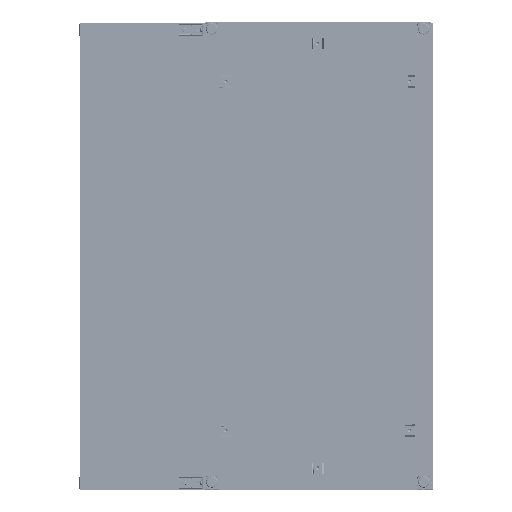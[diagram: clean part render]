
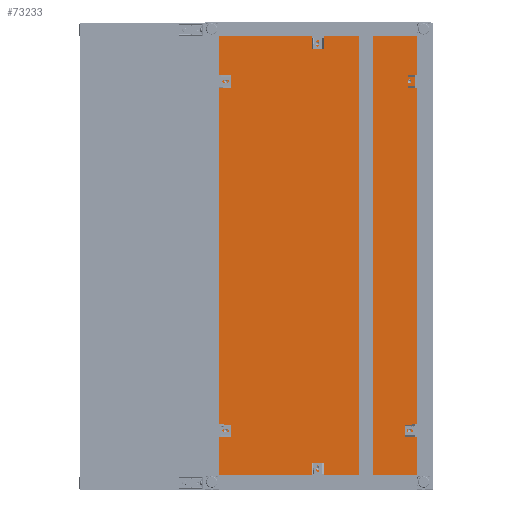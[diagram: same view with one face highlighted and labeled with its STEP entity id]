
A CAD part, top view. The second image highlights one B-rep face of the part: STEP entity #73233.
In plain terms, the highlighted planar face has unit normal (0, 0, 1) as drawn and (0, 0, -1) by its records, which use the part's own axes.
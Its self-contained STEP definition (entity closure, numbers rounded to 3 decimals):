
#5239=FACE_BOUND('',#15379,.T.);
#5240=FACE_BOUND('',#15380,.T.);
#5241=FACE_BOUND('',#15381,.T.);
#5242=FACE_BOUND('',#15382,.T.);
#5243=FACE_BOUND('',#15383,.T.);
#5244=FACE_BOUND('',#15384,.T.);
#7113=PLANE('',#81288);
#11098=FACE_OUTER_BOUND('',#15378,.T.);
#15378=EDGE_LOOP('',(#67421,#67422,#67423,#67424,#67425,#67426,#67427,#67428,
#67429,#67430,#67431,#67432));
#15379=EDGE_LOOP('',(#67433));
#15380=EDGE_LOOP('',(#67434));
#15381=EDGE_LOOP('',(#67435));
#15382=EDGE_LOOP('',(#67436));
#15383=EDGE_LOOP('',(#67437));
#15384=EDGE_LOOP('',(#67438));
#21553=LINE('',#135771,#27866);
#21582=LINE('',#135863,#27895);
#21584=LINE('',#135868,#27897);
#21587=LINE('',#135873,#27900);
#21589=LINE('',#135877,#27902);
#21591=LINE('',#135880,#27904);
#21592=LINE('',#135883,#27905);
#21594=LINE('',#135887,#27907);
#21596=LINE('',#135891,#27909);
#21598=LINE('',#135894,#27911);
#21600=LINE('',#135898,#27913);
#21601=LINE('',#135900,#27914);
#27866=VECTOR('',#101448,0.394);
#27895=VECTOR('',#101535,0.394);
#27897=VECTOR('',#101539,0.394);
#27900=VECTOR('',#101544,0.394);
#27902=VECTOR('',#101548,0.394);
#27904=VECTOR('',#101552,0.394);
#27905=VECTOR('',#101555,0.394);
#27907=VECTOR('',#101559,0.394);
#27909=VECTOR('',#101563,0.394);
#27911=VECTOR('',#101567,0.394);
#27913=VECTOR('',#101571,0.394);
#27914=VECTOR('',#101574,0.394);
#30964=CIRCLE('',#81252,0.23);
#30966=CIRCLE('',#81256,0.23);
#30968=CIRCLE('',#81260,0.23);
#30970=CIRCLE('',#81264,0.23);
#30972=CIRCLE('',#81268,0.23);
#30974=CIRCLE('',#81272,0.23);
#37160=VERTEX_POINT('',#135769);
#37161=VERTEX_POINT('',#135770);
#37166=VERTEX_POINT('',#135783);
#37169=VERTEX_POINT('',#135792);
#37172=VERTEX_POINT('',#135801);
#37175=VERTEX_POINT('',#135810);
#37178=VERTEX_POINT('',#135819);
#37181=VERTEX_POINT('',#135828);
#37194=VERTEX_POINT('',#135860);
#37195=VERTEX_POINT('',#135862);
#37196=VERTEX_POINT('',#135866);
#37197=VERTEX_POINT('',#135867);
#37198=VERTEX_POINT('',#135872);
#37199=VERTEX_POINT('',#135876);
#37200=VERTEX_POINT('',#135882);
#37201=VERTEX_POINT('',#135886);
#37202=VERTEX_POINT('',#135890);
#37203=VERTEX_POINT('',#135896);
#47256=EDGE_CURVE('',#37160,#37161,#21553,.T.);
#47262=EDGE_CURVE('',#37166,#37166,#30964,.T.);
#47266=EDGE_CURVE('',#37169,#37169,#30966,.T.);
#47270=EDGE_CURVE('',#37172,#37172,#30968,.T.);
#47274=EDGE_CURVE('',#37175,#37175,#30970,.T.);
#47278=EDGE_CURVE('',#37178,#37178,#30972,.T.);
#47282=EDGE_CURVE('',#37181,#37181,#30974,.T.);
#47299=EDGE_CURVE('',#37194,#37195,#21582,.T.);
#47301=EDGE_CURVE('',#37196,#37197,#21584,.T.);
#47304=EDGE_CURVE('',#37198,#37196,#21587,.T.);
#47306=EDGE_CURVE('',#37199,#37198,#21589,.T.);
#47308=EDGE_CURVE('',#37199,#37161,#21591,.T.);
#47309=EDGE_CURVE('',#37200,#37160,#21592,.T.);
#47311=EDGE_CURVE('',#37201,#37200,#21594,.T.);
#47313=EDGE_CURVE('',#37202,#37201,#21596,.T.);
#47315=EDGE_CURVE('',#37195,#37202,#21598,.T.);
#47317=EDGE_CURVE('',#37203,#37194,#21600,.T.);
#47318=EDGE_CURVE('',#37197,#37203,#21601,.T.);
#67421=ORIENTED_EDGE('',*,*,#47318,.F.);
#67422=ORIENTED_EDGE('',*,*,#47301,.F.);
#67423=ORIENTED_EDGE('',*,*,#47304,.F.);
#67424=ORIENTED_EDGE('',*,*,#47306,.F.);
#67425=ORIENTED_EDGE('',*,*,#47308,.T.);
#67426=ORIENTED_EDGE('',*,*,#47256,.F.);
#67427=ORIENTED_EDGE('',*,*,#47309,.F.);
#67428=ORIENTED_EDGE('',*,*,#47311,.F.);
#67429=ORIENTED_EDGE('',*,*,#47313,.F.);
#67430=ORIENTED_EDGE('',*,*,#47315,.F.);
#67431=ORIENTED_EDGE('',*,*,#47299,.F.);
#67432=ORIENTED_EDGE('',*,*,#47317,.F.);
#67433=ORIENTED_EDGE('',*,*,#47262,.T.);
#67434=ORIENTED_EDGE('',*,*,#47266,.T.);
#67435=ORIENTED_EDGE('',*,*,#47270,.T.);
#67436=ORIENTED_EDGE('',*,*,#47274,.T.);
#67437=ORIENTED_EDGE('',*,*,#47278,.T.);
#67438=ORIENTED_EDGE('',*,*,#47282,.T.);
#73233=ADVANCED_FACE('',(#11098,#5239,#5240,#5241,#5242,#5243,#5244),#7113,
 .F.);
#81252=AXIS2_PLACEMENT_3D('',#135784,#101459,#101460);
#81256=AXIS2_PLACEMENT_3D('',#135793,#101469,#101470);
#81260=AXIS2_PLACEMENT_3D('',#135802,#101479,#101480);
#81264=AXIS2_PLACEMENT_3D('',#135811,#101489,#101490);
#81268=AXIS2_PLACEMENT_3D('',#135820,#101499,#101500);
#81272=AXIS2_PLACEMENT_3D('',#135829,#101509,#101510);
#81288=AXIS2_PLACEMENT_3D('',#135901,#101575,#101576);
#101448=DIRECTION('',(-1.,0.,0.));
#101459=DIRECTION('center_axis',(0.,0.,1.));
#101460=DIRECTION('ref_axis',(-1.,0.,0.));
#101469=DIRECTION('center_axis',(0.,0.,1.));
#101470=DIRECTION('ref_axis',(-1.,0.,0.));
#101479=DIRECTION('center_axis',(0.,0.,1.));
#101480=DIRECTION('ref_axis',(-1.,0.,0.));
#101489=DIRECTION('center_axis',(0.,0.,1.));
#101490=DIRECTION('ref_axis',(-1.,0.,0.));
#101499=DIRECTION('center_axis',(0.,0.,1.));
#101500=DIRECTION('ref_axis',(-1.,0.,0.));
#101509=DIRECTION('center_axis',(0.,0.,1.));
#101510=DIRECTION('ref_axis',(-1.,0.,0.));
#101535=DIRECTION('',(0.,1.,0.));
#101539=DIRECTION('',(1.,0.,0.));
#101544=DIRECTION('',(0.,-1.,0.));
#101548=DIRECTION('',(-1.,0.,0.));
#101552=DIRECTION('',(0.,1.,0.));
#101555=DIRECTION('',(0.,1.,0.));
#101559=DIRECTION('',(-1.,0.,0.));
#101563=DIRECTION('',(0.,1.,0.));
#101567=DIRECTION('',(1.,0.,0.));
#101571=DIRECTION('',(1.,0.,0.));
#101574=DIRECTION('',(0.,-1.,0.));
#101575=DIRECTION('center_axis',(0.,0.,1.));
#101576=DIRECTION('ref_axis',(1.,0.,0.));
#135769=CARTESIAN_POINT('',(57.1,28.96,0.));
#135770=CARTESIAN_POINT('',(0.76,28.96,0.));
#135771=CARTESIAN_POINT('',(57.1,28.96,0.));
#135783=CARTESIAN_POINT('',(51.6,2.692,0.));
#135784=CARTESIAN_POINT('Origin',(51.37,2.692,0.));
#135792=CARTESIAN_POINT('',(1.882,14.5,0.));
#135793=CARTESIAN_POINT('Origin',(1.652,14.5,0.));
#135801=CARTESIAN_POINT('',(51.6,26.308,0.));
#135802=CARTESIAN_POINT('Origin',(51.37,26.308,0.));
#135810=CARTESIAN_POINT('',(6.72,26.308,0.));
#135811=CARTESIAN_POINT('Origin',(6.49,26.308,0.));
#135819=CARTESIAN_POINT('',(56.438,14.5,0.));
#135820=CARTESIAN_POINT('Origin',(56.208,14.5,0.));
#135828=CARTESIAN_POINT('',(6.72,2.692,0.));
#135829=CARTESIAN_POINT('Origin',(6.49,2.692,0.));
#135860=CARTESIAN_POINT('',(57.13,0.,0.));
#135862=CARTESIAN_POINT('',(57.13,1.8,0.));
#135863=CARTESIAN_POINT('',(57.13,0.,0.));
#135866=CARTESIAN_POINT('',(0.,1.8,0.));
#135867=CARTESIAN_POINT('',(0.73,1.8,0.));
#135868=CARTESIAN_POINT('',(0.,1.8,0.));
#135872=CARTESIAN_POINT('',(0.,27.2,0.));
#135873=CARTESIAN_POINT('',(0.,27.96,0.));
#135876=CARTESIAN_POINT('',(0.76,27.2,0.));
#135877=CARTESIAN_POINT('',(0.76,27.2,0.));
#135880=CARTESIAN_POINT('',(0.76,27.96,0.));
#135882=CARTESIAN_POINT('',(57.1,27.2,0.));
#135883=CARTESIAN_POINT('',(57.1,27.2,0.));
#135886=CARTESIAN_POINT('',(57.86,27.2,0.));
#135887=CARTESIAN_POINT('',(57.86,27.2,0.));
#135890=CARTESIAN_POINT('',(57.86,1.8,0.));
#135891=CARTESIAN_POINT('',(57.86,0.,0.));
#135894=CARTESIAN_POINT('',(57.13,1.8,0.));
#135896=CARTESIAN_POINT('',(0.73,0.,0.));
#135898=CARTESIAN_POINT('',(0.,0.,0.));
#135900=CARTESIAN_POINT('',(0.73,1.8,0.));
#135901=CARTESIAN_POINT('Origin',(28.93,13.98,0.));
